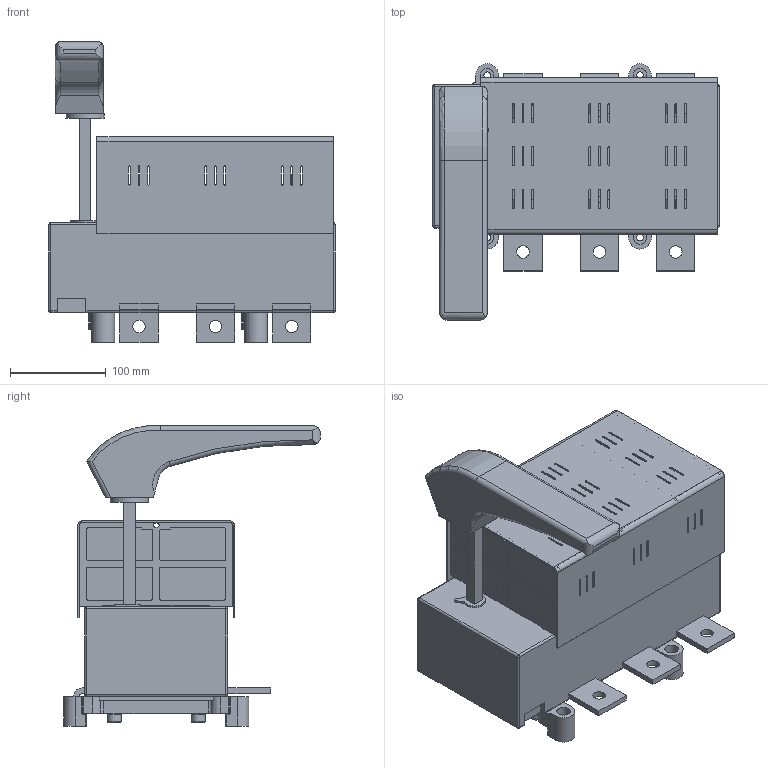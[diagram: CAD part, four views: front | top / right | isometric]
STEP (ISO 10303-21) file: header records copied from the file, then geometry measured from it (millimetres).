
FILE_DESCRIPTION(/* description */ (''),/* implementation_level */ '2;1');
FILE_NAME(/* name */ 'RAB 3 P3 B-R.stp',/* time_stamp */ '2021-08-19T14:58:25+02:00',/* author */ (''),/* organization */ (''),/* preprocessor_version */ 'ST-DEVELOPER v18.1',/* originating_system */ 'SIEMENS PLM Software NX 1965',/* authorisation */ '');
FILE_SCHEMA (('AUTOMOTIVE_DESIGN { 1 0 10303 214 3 1 1 1 }'));
Length unit declared in the file: millimetre
Products named in the file (1): RAB 3 P3 B-R_stp
Bounding box: 300 x 269 x 314.5 mm (x, y, z)
Volume: 4920227.7 mm3; surface area: 678426.6 mm2
Topology: 1 solids, 13 shells, 1584 faces, 4296 edges, 2751 vertices
Faces by surface type: plane 912, cylinder 556, torus 50, bspline 50, cone 8, sphere 8
Full cylindrical faces by diameter (mm): 3 x4, 4.8 x4, 5.6 x4, 6.5 x26, 7 x4, 10.5 x26, 13 x6, 13.5 x4, 14 x4, 15 x4, 40 x1
Entity records: 51797 total; most frequent: CARTESIAN_POINT 11697, DIRECTION 8296, ORIENTED_EDGE 8290, EDGE_CURVE 4145, LINE 2796, VECTOR 2796, AXIS2_PLACEMENT_3D 2750, VERTEX_POINT 2723
